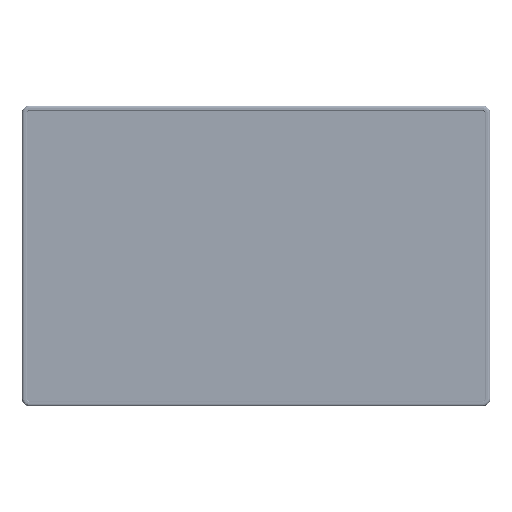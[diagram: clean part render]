
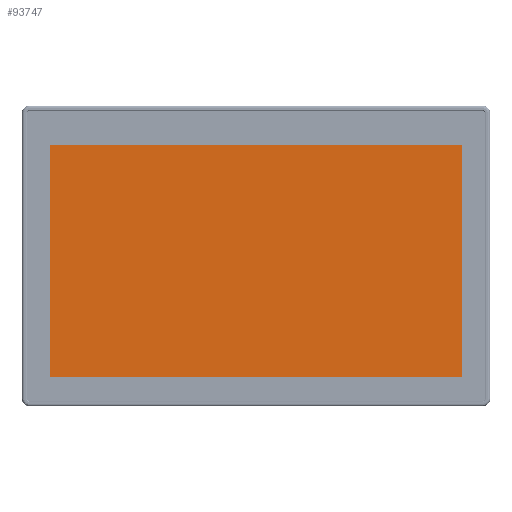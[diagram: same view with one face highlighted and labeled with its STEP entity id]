
A CAD part, front view. The second image highlights one B-rep face of the part: STEP entity #93747.
In plain terms, the highlighted planar face has unit normal (0, -1, 0).
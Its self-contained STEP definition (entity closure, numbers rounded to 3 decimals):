
#5400=LINE('',#132850,#11902);
#5404=LINE('',#132862,#11906);
#5408=LINE('',#132874,#11910);
#5412=LINE('',#132886,#11914);
#11902=VECTOR('',#108693,10.);
#11906=VECTOR('',#108705,10.);
#11910=VECTOR('',#108717,10.);
#11914=VECTOR('',#108729,10.);
#18110=PLANE('',#99494);
#20097=FACE_OUTER_BOUND('',#25441,.T.);
#25441=EDGE_LOOP('',(#61690,#61691,#61692,#61693,#61694,#61695,#61696,#61697));
#34059=CIRCLE('',#99475,1.8);
#34061=CIRCLE('',#99479,1.8);
#34063=CIRCLE('',#99483,1.8);
#34065=CIRCLE('',#99487,1.8);
#37481=VERTEX_POINT('',#132843);
#37484=VERTEX_POINT('',#132848);
#37485=VERTEX_POINT('',#132852);
#37487=VERTEX_POINT('',#132858);
#37489=VERTEX_POINT('',#132864);
#37491=VERTEX_POINT('',#132870);
#37493=VERTEX_POINT('',#132876);
#37495=VERTEX_POINT('',#132882);
#46765=EDGE_CURVE('',#37484,#37481,#5400,.T.);
#46768=EDGE_CURVE('',#37481,#37485,#34059,.T.);
#46771=EDGE_CURVE('',#37485,#37487,#5404,.T.);
#46774=EDGE_CURVE('',#37487,#37489,#34061,.T.);
#46777=EDGE_CURVE('',#37489,#37491,#5408,.T.);
#46780=EDGE_CURVE('',#37491,#37493,#34063,.T.);
#46783=EDGE_CURVE('',#37493,#37495,#5412,.T.);
#46785=EDGE_CURVE('',#37495,#37484,#34065,.T.);
#61690=ORIENTED_EDGE('',*,*,#46765,.F.);
#61691=ORIENTED_EDGE('',*,*,#46785,.F.);
#61692=ORIENTED_EDGE('',*,*,#46783,.F.);
#61693=ORIENTED_EDGE('',*,*,#46780,.F.);
#61694=ORIENTED_EDGE('',*,*,#46777,.F.);
#61695=ORIENTED_EDGE('',*,*,#46774,.F.);
#61696=ORIENTED_EDGE('',*,*,#46771,.F.);
#61697=ORIENTED_EDGE('',*,*,#46768,.F.);
#93747=ADVANCED_FACE('',(#20097),#18110,.F.);
#99475=AXIS2_PLACEMENT_3D('',#132856,#108699,#108700);
#99479=AXIS2_PLACEMENT_3D('',#132868,#108711,#108712);
#99483=AXIS2_PLACEMENT_3D('',#132880,#108723,#108724);
#99487=AXIS2_PLACEMENT_3D('',#132889,#108734,#108735);
#99494=AXIS2_PLACEMENT_3D('',#132908,#108755,#108756);
#108693=DIRECTION('',(0.,0.,1.));
#108699=DIRECTION('center_axis',(0.,1.,0.));
#108700=DIRECTION('ref_axis',(-1.,0.,0.));
#108705=DIRECTION('',(1.,0.,0.));
#108711=DIRECTION('center_axis',(0.,1.,0.));
#108712=DIRECTION('ref_axis',(0.,0.,
1.));
#108717=DIRECTION('',(0.,0.,-1.));
#108723=DIRECTION('center_axis',(0.,1.,0.));
#108724=DIRECTION('ref_axis',(1.,0.,0.));
#108729=DIRECTION('',(-1.,0.,0.));
#108734=DIRECTION('center_axis',(0.,1.,0.));
#108735=DIRECTION('ref_axis',(0.,0.,
-1.));
#108755=DIRECTION('center_axis',(0.,1.,0.));
#108756=DIRECTION('ref_axis',(-1.,0.,0.));
#132843=CARTESIAN_POINT('',(-191.875,0.4,119.825));
#132848=CARTESIAN_POINT('',(-191.875,0.4,-119.825));
#132850=CARTESIAN_POINT('',(-191.875,0.4,-59.913));
#132852=CARTESIAN_POINT('',(-190.075,0.4,121.625));
#132856=CARTESIAN_POINT('Origin',(-190.075,0.4,119.825));
#132858=CARTESIAN_POINT('',(190.075,0.4,121.625));
#132862=CARTESIAN_POINT('',(-95.038,0.4,121.625));
#132864=CARTESIAN_POINT('',(191.875,0.4,119.825));
#132868=CARTESIAN_POINT('Origin',(190.075,0.4,119.825));
#132870=CARTESIAN_POINT('',(191.875,0.4,-119.825));
#132874=CARTESIAN_POINT('',(191.875,0.4,59.912));
#132876=CARTESIAN_POINT('',(190.075,0.4,-121.625));
#132880=CARTESIAN_POINT('Origin',(190.075,0.4,-119.825));
#132882=CARTESIAN_POINT('',(-190.075,0.4,-121.625));
#132886=CARTESIAN_POINT('',(95.037,0.4,-121.625));
#132889=CARTESIAN_POINT('Origin',(-190.075,0.4,-119.825));
#132908=CARTESIAN_POINT('Origin',(0.,0.4,
0.));
